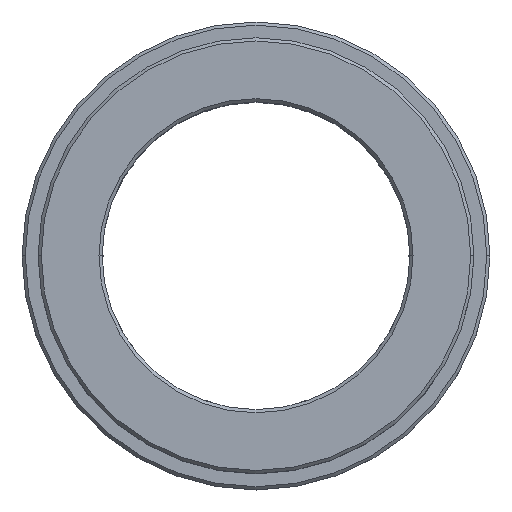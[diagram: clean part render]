
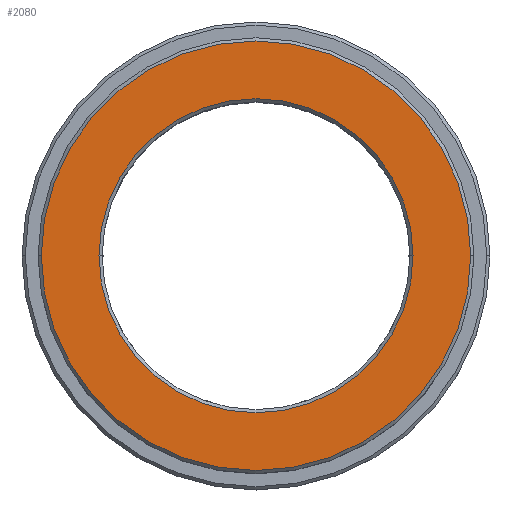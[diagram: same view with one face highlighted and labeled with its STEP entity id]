
A CAD part, top view. The second image highlights one B-rep face of the part: STEP entity #2080.
In plain terms, the highlighted planar face has unit normal (0, 0, 1).
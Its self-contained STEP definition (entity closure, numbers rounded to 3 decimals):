
#879=CARTESIAN_POINT('',(0.,0.,
27.));
#880=DIRECTION('',(0.,0.,-1.));
#881=DIRECTION('',(1.,0.,0.));
#882=AXIS2_PLACEMENT_3D('',#879,#880,#881);
#884=CARTESIAN_POINT('',(0.,0.,
27.));
#885=DIRECTION('',(0.,0.,-1.));
#886=DIRECTION('',(-1.,0.,0.));
#887=AXIS2_PLACEMENT_3D('',#884,#885,#886);
#889=CARTESIAN_POINT('',(0.,0.,
27.));
#890=DIRECTION('',(0.,0.,-1.));
#891=DIRECTION('',(-1.,0.,0.));
#892=AXIS2_PLACEMENT_3D('',#889,#890,#891);
#894=CARTESIAN_POINT('',(0.,0.,
27.));
#895=DIRECTION('',(0.,0.,-1.));
#896=DIRECTION('',(1.,0.,0.));
#897=AXIS2_PLACEMENT_3D('',#894,#895,#896);
#1165=CARTESIAN_POINT('',(33.5,0.,27.));
#1166=CARTESIAN_POINT('',(-33.5,0.,27.));
#1167=VERTEX_POINT('',#1165);
#1168=VERTEX_POINT('',#1166);
#1169=CARTESIAN_POINT('',(-24.5,0.,27.));
#1170=CARTESIAN_POINT('',(24.5,0.,27.));
#1171=VERTEX_POINT('',#1169);
#1172=VERTEX_POINT('',#1170);
#2064=CARTESIAN_POINT('',(0.,0.,27.));
#2065=DIRECTION('',(0.,0.,1.));
#2066=DIRECTION('',(-1.,0.,0.));
#2067=AXIS2_PLACEMENT_3D('',#2064,#2065,#2066);
#2068=PLANE('',#2067);
#2070=ORIENTED_EDGE('',*,*,#2069,.T.);
#2072=ORIENTED_EDGE('',*,*,#2071,.T.);
#2073=EDGE_LOOP('',(#2070,#2072));
#2074=FACE_OUTER_BOUND('',#2073,.F.);
#2076=ORIENTED_EDGE('',*,*,#2075,.F.);
#2077=ORIENTED_EDGE('',*,*,#2054,.F.);
#2078=EDGE_LOOP('',(#2076,#2077));
#2079=FACE_BOUND('',#2078,.F.);
#2080=ADVANCED_FACE('',(#2074,#2079),#2068,.T.);
#883=CIRCLE('',#882,33.5);
#888=CIRCLE('',#887,33.5);
#893=CIRCLE('',#892,24.5);
#898=CIRCLE('',#897,24.5);
#2054=EDGE_CURVE('',#1172,#1171,#898,.T.);
#2069=EDGE_CURVE('',#1167,#1168,#883,.T.);
#2071=EDGE_CURVE('',#1168,#1167,#888,.T.);
#2075=EDGE_CURVE('',#1171,#1172,#893,.T.);
